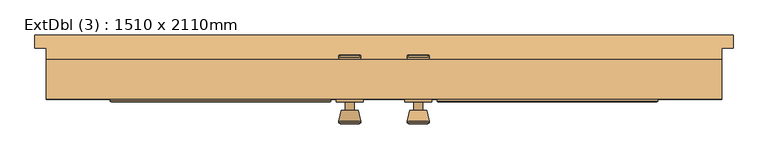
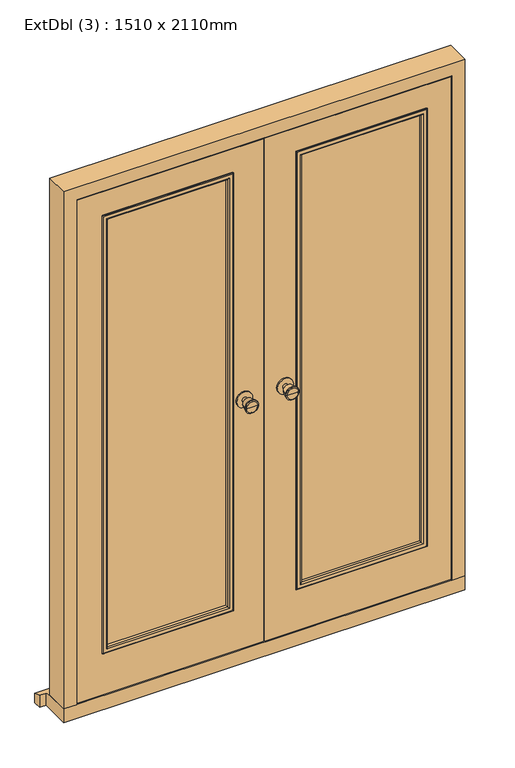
"""IFC4 building model written with IfcOpenShell, lengths in millimetres: door geometry, ExtDbl (3) : 1510 x 2110mm."""

from ifc_helpers import new_model, si_unit, point, frame, frame_2d, origin, place, context, project, spatial, polyline, circle_curve, ellipse_curve, trimmed, segment, composite_curve, outline, extrude, faceted_brep, source, transform, mapped, element, save
from ifc_brep_helpers import plane_surface, cylinder_surface, revolved_surface, advanced_brep


def extdbl_3_1510_x_2110mm_da252324(model_context):
    return source(origin(), model_context, "Body", "SolidModel", [
        advanced_brep(
        [(-76.5, -45.0, 1050.0), (-66.5, -45.0, 1050.0), (-86.5, -45.0, 1050.0), (-96.9758676, -94.0, 1050.0), (-56.0241324, -94.0, 1050.0), (-76.5, -94.0, 1050.0), (-101.5, -92.1721319, 1050.0), (-51.5, -92.1721319, 1050.0), (-101.5, -88.7084537, 1050.0), (-51.5, -88.7084537, 1050.0), (-95.136236, -64.0, 1050.0), (-57.863764, -64.0, 1050.0), (-86.5, -64.0, 1050.0), (-66.5, -64.0, 1050.0)],
        [
            (0, 1),
            (1, 2, circle_curve(frame((-76.5, -45.0, 1050.0), z_axis=(0.0, 1.0, 0.0), x_axis=(1.0, 0.0, 0.0)), 10.0)),
            (2, 0),
            (2, 1, circle_curve(frame((-76.5, -45.0, 1050.0), z_axis=(0.0, 1.0, 0.0), x_axis=(1.0, 0.0, 0.0)), 10.0)),
            (3, 4, circle_curve(frame((-76.5, -94.0, 1050.0), z_axis=(0.0, -1.0, 0.0), x_axis=(1.0, 0.0, 0.0)), 20.4758676)),
            (4, 5),
            (5, 3),
            (4, 3, circle_curve(frame((-76.5, -94.0, 1050.0), z_axis=(0.0, -1.0, 0.0), x_axis=(1.0, 0.0, 0.0)), 20.4758676)),
            (6, 7, circle_curve(frame((-76.5, -92.1721319, 1050.0), z_axis=(0.0, -1.0, 0.0), x_axis=(1.0, 0.0, 0.0)), 25.0)),
            (7, 4),
            (3, 6),
            (7, 6, circle_curve(frame((-76.5, -92.1721319, 1050.0), z_axis=(0.0, -1.0, 0.0), x_axis=(1.0, 0.0, 0.0)), 25.0)),
            (8, 9, circle_curve(frame((-76.5, -88.7084537, 1050.0), z_axis=(0.0, -1.0, 0.0), x_axis=(1.0, 0.0, 0.0)), 25.0)),
            (9, 7),
            (6, 8),
            (9, 8, circle_curve(frame((-76.5, -88.7084537, 1050.0), z_axis=(0.0, -1.0, 0.0), x_axis=(1.0, 0.0, 0.0)), 25.0)),
            (10, 11, circle_curve(frame((-76.5, -64.0, 1050.0), z_axis=(0.0, -1.0, 0.0), x_axis=(1.0, 0.0, 0.0)), 18.636236)),
            (11, 9),
            (8, 10),
            (11, 10, circle_curve(frame((-76.5, -64.0, 1050.0), z_axis=(0.0, -1.0, 0.0), x_axis=(1.0, 0.0, 0.0)), 18.636236)),
            (12, 13, circle_curve(frame((-76.5, -64.0, 1050.0), z_axis=(0.0, -1.0, 0.0), x_axis=(1.0, 0.0, 0.0)), 10.0)),
            (13, 11),
            (10, 12),
            (13, 12, circle_curve(frame((-76.5, -64.0, 1050.0), z_axis=(0.0, -1.0, 0.0), x_axis=(1.0, 0.0, 0.0)), 10.0)),
            (1, 13),
            (12, 2),
        ],
        [
            plane_surface(frame((-76.5, -45.0, 1050.0), z_axis=(0.0, 1.0, 0.0), x_axis=(1.0, 0.0, 0.0))),
            plane_surface(frame((-76.5, -94.0, 1050.0), z_axis=(0.0, -1.0, 0.0), x_axis=(1.0, 0.0, 0.0))),
            revolved_surface(polyline([(-56.0241324, -94.0, 1050.0), (-51.5, -92.1721319, 1050.0)]), (-76.5, -45.0, 1050.0), (0.0, 1.0, 0.0)),
            cylinder_surface(frame((-76.5, -45.0, 1050.0), z_axis=(0.0, 1.0, 0.0), x_axis=(1.0, 0.0, 0.0)), 25.0),
            revolved_surface(polyline([(-51.5, -88.7084537, 1050.0), (-57.863764, -64.0, 1050.0)]), (-76.5, -45.0, 1050.0), (0.0, 1.0, 0.0)),
            plane_surface(frame((-76.5, -64.0, 1050.0), z_axis=(0.0, 1.0, 0.0), x_axis=(1.0, 0.0, 0.0))),
            cylinder_surface(frame((-76.5, -45.0, 1050.0), z_axis=(0.0, 1.0, 0.0), x_axis=(1.0, 0.0, 0.0)), 10.0),
        ],
        [
            (0, [[1, 2, 3]]),
            (0, [[-3, 4, -1]]),
            (1, [[5, 6, 7]]),
            (1, [[8, -7, -6]]),
            (2, [[9, 10, -5, 11]]),
            (2, [[12, -11, -8, -10]]),
            (3, [[13, 14, -9, 15]]),
            (3, [[16, -15, -12, -14]]),
            (4, [[17, 18, -13, 19]]),
            (4, [[20, -19, -16, -18]]),
            (5, [[21, 22, -17, 23]]),
            (5, [[24, -23, -20, -22]]),
            (6, [[-2, 25, -21, 26]]),
            (6, [[-4, -26, -24, -25]]),
        ],
    ),
        extrude(outline(composite_curve([segment(trimmed(circle_curve(frame_2d((1050.0, -76.5)), 30.0), [point((1050.0, -46.5))], [point((1050.0, -106.5))], False, "CARTESIAN"), True, "CONTINUOUS"), segment(trimmed(circle_curve(frame_2d((1050.0, -76.5)), 30.0), [point((1050.0, -106.5))], [point((1050.0, -46.5))], False, "CARTESIAN"), True, "CONTINUOUS")], self_intersect=False)), frame((0.0, -45.0, 0.0), z_axis=(0.0, 1.0, 0.0), x_axis=(0.0, 0.0, 1.0)), (0.0, 0.0, 1.0), 6.0),
        advanced_brep(
        [(-76.5, 11.0, 1050.0), (-86.5, 11.0, 1050.0), (-66.5, 11.0, 1050.0), (-96.9758676, 60.0, 1050.0), (-76.5, 60.0, 1050.0), (-56.0241324, 60.0, 1050.0), (-101.5, 58.1721319, 1050.0), (-51.5, 58.1721319, 1050.0), (-101.5, 54.7084537, 1050.0), (-51.5, 54.7084537, 1050.0), (-95.136236, 30.0, 1050.0), (-57.863764, 30.0, 1050.0), (-86.5, 30.0, 1050.0), (-66.5, 30.0, 1050.0)],
        [
            (0, 1),
            (1, 2, circle_curve(frame((-76.5, 11.0, 1050.0), z_axis=(0.0, -1.0, 0.0), x_axis=(1.0, 0.0, 0.0)), 10.0)),
            (2, 0),
            (2, 1, circle_curve(frame((-76.5, 11.0, 1050.0), z_axis=(0.0, -1.0, 0.0), x_axis=(1.0, 0.0, 0.0)), 10.0)),
            (3, 4),
            (4, 5),
            (5, 3, circle_curve(frame((-76.5, 60.0, 1050.0), z_axis=(0.0, 1.0, 0.0), x_axis=(1.0, 0.0, 0.0)), 20.4758676)),
            (3, 5, circle_curve(frame((-76.5, 60.0, 1050.0), z_axis=(0.0, 1.0, 0.0), x_axis=(1.0, 0.0, 0.0)), 20.4758676)),
            (6, 3),
            (5, 7),
            (7, 6, circle_curve(frame((-76.5, 58.1721319, 1050.0), z_axis=(0.0, 1.0, 0.0), x_axis=(1.0, 0.0, 0.0)), 25.0)),
            (6, 7, circle_curve(frame((-76.5, 58.1721319, 1050.0), z_axis=(0.0, 1.0, 0.0), x_axis=(1.0, 0.0, 0.0)), 25.0)),
            (8, 6),
            (7, 9),
            (9, 8, circle_curve(frame((-76.5, 54.7084537, 1050.0), z_axis=(0.0, 1.0, 0.0), x_axis=(1.0, 0.0, 0.0)), 25.0)),
            (8, 9, circle_curve(frame((-76.5, 54.7084537, 1050.0), z_axis=(0.0, 1.0, 0.0), x_axis=(1.0, 0.0, 0.0)), 25.0)),
            (10, 8),
            (9, 11),
            (11, 10, circle_curve(frame((-76.5, 30.0, 1050.0), z_axis=(0.0, 1.0, 0.0), x_axis=(1.0, 0.0, 0.0)), 18.636236)),
            (10, 11, circle_curve(frame((-76.5, 30.0, 1050.0), z_axis=(0.0, 1.0, 0.0), x_axis=(1.0, 0.0, 0.0)), 18.636236)),
            (12, 10),
            (11, 13),
            (13, 12, circle_curve(frame((-76.5, 30.0, 1050.0), z_axis=(0.0, 1.0, 0.0), x_axis=(1.0, 0.0, 0.0)), 10.0)),
            (12, 13, circle_curve(frame((-76.5, 30.0, 1050.0), z_axis=(0.0, 1.0, 0.0), x_axis=(1.0, 0.0, 0.0)), 10.0)),
            (1, 12),
            (13, 2),
        ],
        [
            plane_surface(frame((-76.5, 11.0, 1050.0), z_axis=(0.0, -1.0, 0.0), x_axis=(1.0, 0.0, 0.0))),
            plane_surface(frame((-76.5, 60.0, 1050.0), z_axis=(0.0, 1.0, 0.0), x_axis=(1.0, 0.0, 0.0))),
            revolved_surface(polyline([(-56.0241324, 60.0, 1050.0), (-51.5, 58.1721319, 1050.0)]), (-76.5, 11.0, 1050.0), (0.0, -1.0, 0.0)),
            cylinder_surface(frame((-76.5, 11.0, 1050.0), z_axis=(0.0, -1.0, 0.0), x_axis=(1.0, 0.0, 0.0)), 25.0),
            revolved_surface(polyline([(-51.5, 54.7084537, 1050.0), (-57.863764, 30.0, 1050.0)]), (-76.5, 11.0, 1050.0), (0.0, -1.0, 0.0)),
            plane_surface(frame((-76.5, 30.0, 1050.0), z_axis=(0.0, -1.0, 0.0), x_axis=(1.0, 0.0, 0.0))),
            cylinder_surface(frame((-76.5, 11.0, 1050.0), z_axis=(0.0, -1.0, 0.0), x_axis=(1.0, 0.0, 0.0)), 10.0),
        ],
        [
            (0, [[1, 2, 3]]),
            (0, [[-3, 4, -1]]),
            (1, [[5, 6, 7]]),
            (1, [[-6, -5, 8]]),
            (2, [[9, -7, 10, 11]]),
            (2, [[-10, -8, -9, 12]]),
            (3, [[13, -11, 14, 15]]),
            (3, [[-14, -12, -13, 16]]),
            (4, [[17, -15, 18, 19]]),
            (4, [[-18, -16, -17, 20]]),
            (5, [[21, -19, 22, 23]]),
            (5, [[-22, -20, -21, 24]]),
            (6, [[25, -23, 26, -2]]),
            (6, [[-26, -24, -25, -4]]),
        ],
    ),
        extrude(outline(composite_curve([segment(trimmed(circle_curve(frame_2d((1050.0, -76.5)), 30.0), [point((1050.0, -46.5))], [point((1050.0, -106.5))], False, "CARTESIAN"), True, "CONTINUOUS"), segment(trimmed(circle_curve(frame_2d((1050.0, -76.5)), 30.0), [point((1050.0, -106.5))], [point((1050.0, -46.5))], False, "CARTESIAN"), True, "CONTINUOUS")], self_intersect=False)), frame((0.0, 5.0, 0.0), z_axis=(0.0, 1.0, 0.0), x_axis=(0.0, 0.0, 1.0)), (0.0, 0.0, 1.0), 6.0),
        advanced_brep(
        [(76.5, -45.0, 1050.0), (86.5, -45.0, 1050.0), (66.5, -45.0, 1050.0), (96.9758676, -94.0, 1050.0), (76.5, -94.0, 1050.0), (56.0241324, -94.0, 1050.0), (101.5, -92.1721319, 1050.0), (51.5, -92.1721319, 1050.0), (101.5, -88.7084537, 1050.0), (51.5, -88.7084537, 1050.0), (95.136236, -64.0, 1050.0), (57.863764, -64.0, 1050.0), (86.5, -64.0, 1050.0), (66.5, -64.0, 1050.0)],
        [
            (0, 1),
            (1, 2, circle_curve(frame((76.5, -45.0, 1050.0), z_axis=(0.0, 1.0, 0.0), x_axis=(-1.0, 0.0, 0.0)), 10.0)),
            (2, 0),
            (2, 1, circle_curve(frame((76.5, -45.0, 1050.0), z_axis=(0.0, 1.0, 0.0), x_axis=(-1.0, 0.0, 0.0)), 10.0)),
            (3, 4),
            (4, 5),
            (5, 3, circle_curve(frame((76.5, -94.0, 1050.0), z_axis=(0.0, -1.0, 0.0), x_axis=(-1.0, 0.0, 0.0)), 20.4758676)),
            (3, 5, circle_curve(frame((76.5, -94.0, 1050.0), z_axis=(0.0, -1.0, 0.0), x_axis=(-1.0, 0.0, 0.0)), 20.4758676)),
            (6, 3),
            (5, 7),
            (7, 6, circle_curve(frame((76.5, -92.1721319, 1050.0), z_axis=(0.0, -1.0, 0.0), x_axis=(-1.0, 0.0, 0.0)), 25.0)),
            (6, 7, circle_curve(frame((76.5, -92.1721319, 1050.0), z_axis=(0.0, -1.0, 0.0), x_axis=(-1.0, 0.0, 0.0)), 25.0)),
            (8, 6),
            (7, 9),
            (9, 8, circle_curve(frame((76.5, -88.7084537, 1050.0), z_axis=(0.0, -1.0, 0.0), x_axis=(-1.0, 0.0, 0.0)), 25.0)),
            (8, 9, circle_curve(frame((76.5, -88.7084537, 1050.0), z_axis=(0.0, -1.0, 0.0), x_axis=(-1.0, 0.0, 0.0)), 25.0)),
            (10, 8),
            (9, 11),
            (11, 10, circle_curve(frame((76.5, -64.0, 1050.0), z_axis=(0.0, -1.0, 0.0), x_axis=(-1.0, 0.0, 0.0)), 18.636236)),
            (10, 11, circle_curve(frame((76.5, -64.0, 1050.0), z_axis=(0.0, -1.0, 0.0), x_axis=(-1.0, 0.0, 0.0)), 18.636236)),
            (12, 10),
            (11, 13),
            (13, 12, circle_curve(frame((76.5, -64.0, 1050.0), z_axis=(0.0, -1.0, 0.0), x_axis=(-1.0, 0.0, 0.0)), 10.0)),
            (12, 13, circle_curve(frame((76.5, -64.0, 1050.0), z_axis=(0.0, -1.0, 0.0), x_axis=(-1.0, 0.0, 0.0)), 10.0)),
            (1, 12),
            (13, 2),
        ],
        [
            plane_surface(frame((76.5, -45.0, 1050.0), z_axis=(0.0, 1.0, 0.0), x_axis=(-1.0, 0.0, 0.0))),
            plane_surface(frame((76.5, -94.0, 1050.0), z_axis=(0.0, -1.0, 0.0), x_axis=(-1.0, 0.0, 0.0))),
            revolved_surface(polyline([(56.0241324, -94.0, 1050.0), (51.5, -92.1721319, 1050.0)]), (76.5, -45.0, 1050.0), (0.0, 1.0, 0.0)),
            cylinder_surface(frame((76.5, -45.0, 1050.0), z_axis=(0.0, 1.0, 0.0), x_axis=(-1.0, 0.0, 0.0)), 25.0),
            revolved_surface(polyline([(51.5, -88.7084537, 1050.0), (57.863764, -64.0, 1050.0)]), (76.5, -45.0, 1050.0), (0.0, 1.0, 0.0)),
            plane_surface(frame((76.5, -64.0, 1050.0), z_axis=(0.0, 1.0, 0.0), x_axis=(-1.0, 0.0, 0.0))),
            cylinder_surface(frame((76.5, -45.0, 1050.0), z_axis=(0.0, 1.0, 0.0), x_axis=(-1.0, 0.0, 0.0)), 10.0),
        ],
        [
            (0, [[1, 2, 3]]),
            (0, [[-3, 4, -1]]),
            (1, [[5, 6, 7]]),
            (1, [[-6, -5, 8]]),
            (2, [[9, -7, 10, 11]]),
            (2, [[-10, -8, -9, 12]]),
            (3, [[13, -11, 14, 15]]),
            (3, [[-14, -12, -13, 16]]),
            (4, [[17, -15, 18, 19]]),
            (4, [[-18, -16, -17, 20]]),
            (5, [[21, -19, 22, 23]]),
            (5, [[-22, -20, -21, 24]]),
            (6, [[25, -23, 26, -2]]),
            (6, [[-26, -24, -25, -4]]),
        ],
    ),
        extrude(outline(composite_curve([segment(trimmed(circle_curve(frame_2d((1050.0, 76.5)), 30.0), [point((1050.0, 46.5))], [point((1050.0, 106.5))], False, "CARTESIAN"), True, "CONTINUOUS"), segment(trimmed(circle_curve(frame_2d((1050.0, 76.5)), 30.0), [point((1050.0, 106.5))], [point((1050.0, 46.5))], False, "CARTESIAN"), True, "CONTINUOUS")], self_intersect=False)), frame((0.0, -45.0, 0.0), z_axis=(0.0, 1.0, 0.0), x_axis=(0.0, 0.0, 1.0)), (0.0, 0.0, 1.0), 6.0),
        advanced_brep(
        [(76.5, 11.0, 1050.0), (66.5, 11.0, 1050.0), (86.5, 11.0, 1050.0), (96.9758676, 60.0, 1050.0), (56.0241324, 60.0, 1050.0), (76.5, 60.0, 1050.0), (101.5, 58.1721319, 1050.0), (51.5, 58.1721319, 1050.0), (101.5, 54.7084537, 1050.0), (51.5, 54.7084537, 1050.0), (95.136236, 30.0, 1050.0), (57.863764, 30.0, 1050.0), (86.5, 30.0, 1050.0), (66.5, 30.0, 1050.0)],
        [
            (0, 1),
            (1, 2, circle_curve(frame((76.5, 11.0, 1050.0), z_axis=(0.0, -1.0, 0.0), x_axis=(-1.0, 0.0, 0.0)), 10.0)),
            (2, 0),
            (2, 1, circle_curve(frame((76.5, 11.0, 1050.0), z_axis=(0.0, -1.0, 0.0), x_axis=(-1.0, 0.0, 0.0)), 10.0)),
            (3, 4, circle_curve(frame((76.5, 60.0, 1050.0), z_axis=(0.0, 1.0, 0.0), x_axis=(-1.0, 0.0, 0.0)), 20.4758676)),
            (4, 5),
            (5, 3),
            (4, 3, circle_curve(frame((76.5, 60.0, 1050.0), z_axis=(0.0, 1.0, 0.0), x_axis=(-1.0, 0.0, 0.0)), 20.4758676)),
            (6, 7, circle_curve(frame((76.5, 58.1721319, 1050.0), z_axis=(0.0, 1.0, 0.0), x_axis=(-1.0, 0.0, 0.0)), 25.0)),
            (7, 4),
            (3, 6),
            (7, 6, circle_curve(frame((76.5, 58.1721319, 1050.0), z_axis=(0.0, 1.0, 0.0), x_axis=(-1.0, 0.0, 0.0)), 25.0)),
            (8, 9, circle_curve(frame((76.5, 54.7084537, 1050.0), z_axis=(0.0, 1.0, 0.0), x_axis=(-1.0, 0.0, 0.0)), 25.0)),
            (9, 7),
            (6, 8),
            (9, 8, circle_curve(frame((76.5, 54.7084537, 1050.0), z_axis=(0.0, 1.0, 0.0), x_axis=(-1.0, 0.0, 0.0)), 25.0)),
            (10, 11, circle_curve(frame((76.5, 30.0, 1050.0), z_axis=(0.0, 1.0, 0.0), x_axis=(-1.0, 0.0, 0.0)), 18.636236)),
            (11, 9),
            (8, 10),
            (11, 10, circle_curve(frame((76.5, 30.0, 1050.0), z_axis=(0.0, 1.0, 0.0), x_axis=(-1.0, 0.0, 0.0)), 18.636236)),
            (12, 13, circle_curve(frame((76.5, 30.0, 1050.0), z_axis=(0.0, 1.0, 0.0), x_axis=(-1.0, 0.0, 0.0)), 10.0)),
            (13, 11),
            (10, 12),
            (13, 12, circle_curve(frame((76.5, 30.0, 1050.0), z_axis=(0.0, 1.0, 0.0), x_axis=(-1.0, 0.0, 0.0)), 10.0)),
            (1, 13),
            (12, 2),
        ],
        [
            plane_surface(frame((76.5, 11.0, 1050.0), z_axis=(0.0, -1.0, 0.0), x_axis=(-1.0, 0.0, 0.0))),
            plane_surface(frame((76.5, 60.0, 1050.0), z_axis=(0.0, 1.0, 0.0), x_axis=(-1.0, 0.0, 0.0))),
            revolved_surface(polyline([(56.0241324, 60.0, 1050.0), (51.5, 58.1721319, 1050.0)]), (76.5, 11.0, 1050.0), (0.0, -1.0, 0.0)),
            cylinder_surface(frame((76.5, 11.0, 1050.0), z_axis=(0.0, -1.0, 0.0), x_axis=(-1.0, 0.0, 0.0)), 25.0),
            revolved_surface(polyline([(51.5, 54.7084537, 1050.0), (57.863764, 30.0, 1050.0)]), (76.5, 11.0, 1050.0), (0.0, -1.0, 0.0)),
            plane_surface(frame((76.5, 30.0, 1050.0), z_axis=(0.0, -1.0, 0.0), x_axis=(-1.0, 0.0, 0.0))),
            cylinder_surface(frame((76.5, 11.0, 1050.0), z_axis=(0.0, -1.0, 0.0), x_axis=(-1.0, 0.0, 0.0)), 10.0),
        ],
        [
            (0, [[1, 2, 3]]),
            (0, [[-3, 4, -1]]),
            (1, [[5, 6, 7]]),
            (1, [[8, -7, -6]]),
            (2, [[9, 10, -5, 11]]),
            (2, [[12, -11, -8, -10]]),
            (3, [[13, 14, -9, 15]]),
            (3, [[16, -15, -12, -14]]),
            (4, [[17, 18, -13, 19]]),
            (4, [[20, -19, -16, -18]]),
            (5, [[21, 22, -17, 23]]),
            (5, [[24, -23, -20, -22]]),
            (6, [[-2, 25, -21, 26]]),
            (6, [[-4, -26, -24, -25]]),
        ],
    ),
        extrude(outline(composite_curve([segment(trimmed(circle_curve(frame_2d((1050.0, 76.5)), 30.0), [point((1050.0, 46.5))], [point((1050.0, 106.5))], False, "CARTESIAN"), True, "CONTINUOUS"), segment(trimmed(circle_curve(frame_2d((1050.0, 76.5)), 30.0), [point((1050.0, 106.5))], [point((1050.0, 46.5))], False, "CARTESIAN"), True, "CONTINUOUS")], self_intersect=False)), frame((0.0, 5.0, 0.0), z_axis=(0.0, 1.0, 0.0), x_axis=(0.0, 0.0, 1.0)), (0.0, 0.0, 1.0), 6.0),
        faceted_brep([(684.5, 50.0, 54.5), (755.0, 50.0, 54.5), (755.0, -39.0, 54.5), (706.5, -39.0, 54.5), (706.5, 8.0, 54.5), (684.5, 8.0, 54.5), (684.5, 50.0, 2039.5), (-684.5, 50.0, 2039.5), (-684.5, 50.0, 54.5), (-755.0, 50.0, 54.5), (-755.0, 50.0, 2110.0), (755.0, 50.0, 2110.0), (755.0, -39.0, 2110.0), (-755.0, -39.0, 2110.0), (-755.0, -39.0, 54.5), (-706.5, -39.0, 54.5), (-706.5, -39.0, 2061.5), (706.5, -39.0, 2061.5), (706.5, 8.0, 2061.5), (-706.5, 8.0, 2061.5), (-706.5, 8.0, 54.5), (-684.5, 8.0, 54.5), (-684.5, 8.0, 2039.5), (684.5, 8.0, 2039.5)], [[[0, 1, 2, 3, 4, 5]], [[1, 0, 6, 7, 8, 9, 10, 11]], [[2, 1, 11, 12]], [[3, 2, 12, 13, 14, 15, 16, 17]], [[4, 3, 17, 18]], [[5, 4, 18, 19, 20, 21, 22, 23]], [[0, 5, 23, 6]], [[7, 22, 21, 8]], [[8, 21, 20, 15, 14, 9]], [[13, 10, 9, 14]], [[19, 16, 15, 20]], [[12, 11, 10, 13]], [[18, 17, 16, 19]], [[6, 23, 22, 7]]]),
        extrude(outline(polyline([(126.5, -5.0), (603.5, -5.0), (603.5, -29.0), (126.5, -29.0), (126.5, -5.0)])), frame((0.0, 0.0, 233.5), z_axis=(0.0, 0.0, 1.0), x_axis=(1.0, 0.0, 0.0)), (0.0, 0.0, 1.0), 1725.0),
        extrude(outline(polyline([(-603.5, -5.0), (-126.5, -5.0), (-126.5, -29.0), (-603.5, -29.0), (-603.5, -5.0)])), frame((0.0, 0.0, 233.5), z_axis=(0.0, 0.0, 1.0), x_axis=(1.0, 0.0, 0.0)), (0.0, 0.0, 1.0), 1725.0),
        faceted_brep([(780.0, 105.0, 0.0), (780.0, 105.0, 38.5947221), (780.0, 75.0, 47.2703282), (780.0, 75.0, 0.0), (-780.0, 105.0, 38.5947221), (-780.0, 105.0, 0.0), (-780.0, 75.0, 0.0), (-780.0, 75.0, 47.2703282), (755.0, 75.0, 0.0), (755.0, -39.0, 0.0), (-755.0, -39.0, 0.0), (-755.0, 75.0, 0.0), (-755.0, 75.0, 47.2703282), (-755.0, 50.0, 54.5), (755.0, 50.0, 54.5), (755.0, 75.0, 47.2703282), (-755.0, -39.0, 54.5), (755.0, -39.0, 54.5)], [[[0, 1, 2, 3]], [[4, 5, 6, 7]], [[5, 0, 3, 8, 9, 10, 11, 6]], [[1, 0, 5, 4]], [[1, 4, 7, 12, 13, 14, 15, 2]], [[13, 16, 17, 14]], [[16, 10, 9, 17]], [[12, 11, 10, 16, 13]], [[11, 12, 7, 6]], [[8, 15, 14, 17, 9]], [[15, 8, 3, 2]]]),
        extrude(outline(polyline([(58.5, 703.5), (2058.5, 703.5), (2058.5, 1.5), (58.5, 1.5), (58.5, 703.5)]), holes=[polyline([(1958.5, 603.5), (233.5, 603.5), (233.5, 126.5), (1958.5, 126.5), (1958.5, 603.5)])]), frame((0.0, -39.0, 0.0), z_axis=(0.0, 1.0, 0.0), x_axis=(0.0, 0.0, 1.0)), (0.0, 0.0, 1.0), 44.0),
        extrude(outline(polyline([(58.5, -703.5), (58.5, -1.5), (2058.5, -1.5), (2058.5, -703.5), (58.5, -703.5)]), holes=[polyline([(1958.5, -126.5), (233.5, -126.5), (233.5, -603.5), (1958.5, -603.5), (1958.5, -126.5)])]), frame((0.0, -39.0, 0.0), z_axis=(0.0, 1.0, 0.0), x_axis=(0.0, 0.0, 1.0)), (0.0, 0.0, 1.0), 44.0),
        advanced_brep(
        [(611.5, -43.0, 225.5), (611.5, -39.0, 225.5), (611.5, -39.0, 1966.5), (611.5, -43.0, 1966.5), (609.5, -45.0, 227.5), (609.5, -45.0, 1964.5), (591.5, -40.0, 245.5), (596.5, -45.0, 240.5), (596.5, -45.0, 1951.5), (591.5, -40.0, 1946.5), (591.5, -29.0, 245.5), (591.5, -29.0, 1946.5), (603.5, -39.0, 233.5), (603.5, -29.0, 233.5), (603.5, -29.0, 1958.5), (603.5, -39.0, 1958.5), (118.5, -39.0, 1966.5), (118.5, -43.0, 1966.5), (120.5, -45.0, 1964.5), (133.5, -45.0, 1951.5), (138.5, -40.0, 1946.5), (138.5, -29.0, 1946.5), (126.5, -29.0, 1958.5), (126.5, -39.0, 1958.5), (118.5, -39.0, 225.5), (118.5, -43.0, 225.5), (120.5, -45.0, 227.5), (133.5, -45.0, 240.5), (138.5, -40.0, 245.5), (138.5, -29.0, 245.5), (126.5, -29.0, 233.5), (126.5, -39.0, 233.5)],
        [
            (0, 1),
            (1, 2),
            (2, 3),
            (3, 0),
            (4, 0, ellipse_curve(frame((609.5, -43.0, 227.5), z_axis=(0.707106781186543, 0.0, 0.707106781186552), x_axis=(0.707106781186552, 0.0, -0.7071067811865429)), 2.8284271, 2.0)),
            (3, 5, ellipse_curve(frame((609.5, -43.0, 1964.5), z_axis=(0.707106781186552, 0.0, -0.707106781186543), x_axis=(-0.7071067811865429, 0.0, -0.707106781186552)), 2.8284271, 2.0)),
            (5, 4),
            (6, 7, ellipse_curve(frame((596.5, -40.0, 240.5), z_axis=(0.707106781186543, 0.0, 0.707106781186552), x_axis=(0.707106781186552, 0.0, -0.7071067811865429)), 7.0710678, 5.0)),
            (7, 8),
            (8, 9, ellipse_curve(frame((596.5, -40.0, 1951.5), z_axis=(0.707106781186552, 0.0, -0.707106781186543), x_axis=(-0.7071067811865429, 0.0, -0.707106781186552)), 7.0710678, 5.0)),
            (9, 6),
            (10, 6),
            (9, 11),
            (11, 10),
            (12, 13),
            (13, 14),
            (14, 15),
            (15, 12),
            (2, 16),
            (16, 17),
            (17, 3),
            (17, 18, ellipse_curve(frame((120.5, -43.0, 1964.5), z_axis=(0.707106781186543, 0.0, 0.707106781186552), x_axis=(0.707106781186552, 0.0, -0.7071067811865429)), 2.8284271, 2.0)),
            (18, 5),
            (8, 19),
            (19, 20, ellipse_curve(frame((133.5, -40.0, 1951.5), z_axis=(0.707106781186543, 0.0, 0.707106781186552), x_axis=(0.707106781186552, 0.0, -0.7071067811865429)), 7.0710678, 5.0)),
            (20, 9),
            (20, 21),
            (21, 11),
            (14, 22),
            (22, 23),
            (23, 15),
            (16, 24),
            (24, 25),
            (25, 17),
            (25, 26, ellipse_curve(frame((120.5, -43.0, 227.5), z_axis=(-0.707106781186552, 0.0, 0.7071067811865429), x_axis=(0.7071067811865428, 0.0, 0.7071067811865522)), 2.8284271, 2.0)),
            (26, 18),
            (19, 27),
            (27, 28, ellipse_curve(frame((133.5, -40.0, 240.5), z_axis=(-0.707106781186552, 0.0, 0.7071067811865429), x_axis=(0.7071067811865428, 0.0, 0.7071067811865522)), 7.0710678, 5.0)),
            (28, 20),
            (28, 29),
            (29, 21),
            (22, 30),
            (30, 31),
            (31, 23),
            (24, 1),
            (0, 25),
            (4, 26),
            (7, 27),
            (6, 28),
            (10, 29),
            (13, 30),
            (12, 31),
        ],
        [
            plane_surface(frame((611.5, -39.0, 225.5), z_axis=(1.0, 0.0, 0.0), x_axis=(0.0, 0.0, 1.0))),
            cylinder_surface(frame((609.5, -43.0, 233.5), z_axis=(0.0, 0.0, -1.0), x_axis=(1.0, 0.0, 0.0)), 2.0),
            cylinder_surface(frame((596.5, -40.0, 233.5), z_axis=(0.0, 0.0, -1.0), x_axis=(1.0, 0.0, 0.0)), 5.0),
            plane_surface(frame((591.5, -40.0, 245.5), z_axis=(-1.0, 0.0, 0.0), x_axis=(0.0, 0.0, 1.0))),
            plane_surface(frame((603.5, -29.0, 233.5), z_axis=(1.0, 0.0, 0.0), x_axis=(0.0, 0.0, 1.0))),
            plane_surface(frame((611.5, -39.0, 1966.5), z_axis=(0.0, 0.0, 1.0), x_axis=(-1.0, 0.0, 0.0))),
            cylinder_surface(frame((603.5, -43.0, 1964.5), z_axis=(1.0, 0.0, 0.0), x_axis=(0.0, 0.0, 1.0)), 2.0),
            cylinder_surface(frame((603.5, -40.0, 1951.5), z_axis=(1.0, 0.0, 0.0), x_axis=(0.0, 0.0, 1.0)), 5.0),
            plane_surface(frame((591.5, -40.0, 1946.5), z_axis=(0.0, 0.0, -1.0), x_axis=(-1.0, 0.0, 0.0))),
            plane_surface(frame((603.5, -29.0, 1958.5), z_axis=(0.0, 0.0, 1.0), x_axis=(-1.0, 0.0, 0.0))),
            plane_surface(frame((118.5, -39.0, 1966.5), z_axis=(-1.0, 0.0, 0.0), x_axis=(0.0, 0.0, -1.0))),
            cylinder_surface(frame((120.5, -43.0, 1958.5), z_axis=(0.0, 0.0, 1.0), x_axis=(-1.0, 0.0, 0.0)), 2.0),
            cylinder_surface(frame((133.5, -40.0, 1958.5), z_axis=(0.0, 0.0, 1.0), x_axis=(-1.0, 0.0, 0.0)), 5.0),
            plane_surface(frame((138.5, -40.0, 1946.5), z_axis=(1.0, 0.0, 0.0), x_axis=(0.0, 0.0, -1.0))),
            plane_surface(frame((126.5, -29.0, 1958.5), z_axis=(-1.0, 0.0, 0.0), x_axis=(0.0, 0.0, -1.0))),
            plane_surface(frame((118.5, -39.0, 225.5), z_axis=(0.0, 0.0, -1.0), x_axis=(1.0, 0.0, 0.0))),
            cylinder_surface(frame((126.5, -43.0, 227.5), z_axis=(-1.0, 0.0, 0.0), x_axis=(0.0, 0.0, -1.0)), 2.0),
            plane_surface(frame((120.5, -45.0, 227.5), z_axis=(0.0, -1.0, 0.0), x_axis=(1.0, 0.0, 0.0))),
            cylinder_surface(frame((126.5, -40.0, 240.5), z_axis=(-1.0, 0.0, 0.0), x_axis=(0.0, 0.0, -1.0)), 5.0),
            plane_surface(frame((138.5, -40.0, 245.5), z_axis=(0.0, 0.0, 1.0), x_axis=(1.0, 0.0, 0.0))),
            plane_surface(frame((138.5, -29.0, 245.5), z_axis=(0.0, 1.0, 0.0), x_axis=(1.0, 0.0, 0.0))),
            plane_surface(frame((126.5, -29.0, 233.5), z_axis=(0.0, 0.0, -1.0), x_axis=(1.0, 0.0, 0.0))),
            plane_surface(frame((126.5, -39.0, 233.5), z_axis=(0.0, 1.0, 0.0), x_axis=(1.0, 0.0, 0.0))),
        ],
        [
            (0, [[1, 2, 3, 4]]),
            (1, [[5, -4, 6, 7]]),
            (2, [[8, 9, 10, 11]]),
            (3, [[12, -11, 13, 14]]),
            (4, [[15, 16, 17, 18]]),
            (5, [[-3, 19, 20, 21]]),
            (6, [[-6, -21, 22, 23]]),
            (7, [[-10, 24, 25, 26]]),
            (8, [[-13, -26, 27, 28]]),
            (9, [[-17, 29, 30, 31]]),
            (10, [[-20, 32, 33, 34]]),
            (11, [[-22, -34, 35, 36]]),
            (12, [[-25, 37, 38, 39]]),
            (13, [[-27, -39, 40, 41]]),
            (14, [[-30, 42, 43, 44]]),
            (15, [[-33, 45, -1, 46]]),
            (16, [[-35, -46, -5, 47]]),
            (17, [[-23, -36, -47, -7], [48, -37, -24, -9]]),
            (18, [[-38, -48, -8, 49]]),
            (19, [[-40, -49, -12, 50]]),
            (20, [[51, -42, -29, -16], [-28, -41, -50, -14]]),
            (21, [[-43, -51, -15, 52]]),
            (22, [[-45, -32, -19, -2], [-31, -44, -52, -18]]),
        ],
    ),
        advanced_brep(
        [(-603.5, -29.0, 233.5), (-603.5, -39.0, 233.5), (-603.5, -39.0, 1958.5), (-603.5, -29.0, 1958.5), (-591.5, -40.0, 245.5), (-591.5, -29.0, 245.5), (-591.5, -29.0, 1946.5), (-591.5, -40.0, 1946.5), (-596.5, -45.0, 240.5), (-596.5, -45.0, 1951.5), (-611.5, -43.0, 225.5), (-609.5, -45.0, 227.5), (-609.5, -45.0, 1964.5), (-611.5, -43.0, 1966.5), (-611.5, -39.0, 225.5), (-611.5, -39.0, 1966.5), (-126.5, -39.0, 1958.5), (-126.5, -29.0, 1958.5), (-138.5, -29.0, 1946.5), (-138.5, -40.0, 1946.5), (-133.5, -45.0, 1951.5), (-120.5, -45.0, 1964.5), (-118.5, -43.0, 1966.5), (-118.5, -39.0, 1966.5), (-126.5, -39.0, 233.5), (-126.5, -29.0, 233.5), (-138.5, -29.0, 245.5), (-138.5, -40.0, 245.5), (-133.5, -45.0, 240.5), (-120.5, -45.0, 227.5), (-118.5, -43.0, 225.5), (-118.5, -39.0, 225.5)],
        [
            (0, 1),
            (1, 2),
            (2, 3),
            (3, 0),
            (4, 5),
            (5, 6),
            (6, 7),
            (7, 4),
            (8, 4, ellipse_curve(frame((-596.5, -40.0, 240.5), z_axis=(-0.707106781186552, 0.0, 0.7071067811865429), x_axis=(-0.7071067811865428, 0.0, -0.7071067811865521)), 7.0710678, 5.0)),
            (7, 9, ellipse_curve(frame((-596.5, -40.0, 1951.5), z_axis=(-0.707106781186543, 0.0, -0.707106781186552), x_axis=(0.707106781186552, 0.0, -0.707106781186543)), 7.0710678, 5.0)),
            (9, 8),
            (10, 11, ellipse_curve(frame((-609.5, -43.0, 227.5), z_axis=(-0.707106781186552, 0.0, 0.7071067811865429), x_axis=(-0.7071067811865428, 0.0, -0.7071067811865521)), 2.8284271, 2.0)),
            (11, 12),
            (12, 13, ellipse_curve(frame((-609.5, -43.0, 1964.5), z_axis=(-0.707106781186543, 0.0, -0.707106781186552), x_axis=(0.707106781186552, 0.0, -0.707106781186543)), 2.8284271, 2.0)),
            (13, 10),
            (14, 10),
            (13, 15),
            (15, 14),
            (2, 16),
            (16, 17),
            (17, 3),
            (6, 18),
            (18, 19),
            (19, 7),
            (19, 20, ellipse_curve(frame((-133.5, -40.0, 1951.5), z_axis=(-0.707106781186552, 0.0, 0.707106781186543), x_axis=(-0.707106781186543, 0.0, -0.707106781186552)), 7.0710678, 5.0)),
            (20, 9),
            (12, 21),
            (21, 22, ellipse_curve(frame((-120.5, -43.0, 1964.5), z_axis=(-0.707106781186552, 0.0, 0.707106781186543), x_axis=(-0.707106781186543, 0.0, -0.707106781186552)), 2.8284271, 2.0)),
            (22, 13),
            (22, 23),
            (23, 15),
            (16, 24),
            (24, 25),
            (25, 17),
            (18, 26),
            (26, 27),
            (27, 19),
            (27, 28, ellipse_curve(frame((-133.5, -40.0, 240.5), z_axis=(0.7071067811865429, 0.0, 0.707106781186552), x_axis=(-0.7071067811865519, 0.0, 0.707106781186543)), 7.0710678, 5.0)),
            (28, 20),
            (21, 29),
            (29, 30, ellipse_curve(frame((-120.5, -43.0, 227.5), z_axis=(0.7071067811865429, 0.0, 0.707106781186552), x_axis=(-0.7071067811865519, 0.0, 0.707106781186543)), 2.8284271, 2.0)),
            (30, 22),
            (30, 31),
            (31, 23),
            (31, 14),
            (1, 24),
            (0, 25),
            (5, 26),
            (4, 27),
            (8, 28),
            (11, 29),
            (10, 30),
        ],
        [
            plane_surface(frame((-603.5, -39.0, 233.5), z_axis=(-1.0, 0.0, 0.0), x_axis=(0.0, 0.0, 1.0))),
            plane_surface(frame((-591.5, -29.0, 245.5), z_axis=(1.0, 0.0, 0.0), x_axis=(0.0, 0.0, 1.0))),
            cylinder_surface(frame((-596.5, -40.0, 233.5), z_axis=(0.0, 0.0, -1.0), x_axis=(-1.0, 0.0, 0.0)), 5.0),
            cylinder_surface(frame((-609.5, -43.0, 233.5), z_axis=(0.0, 0.0, -1.0), x_axis=(-1.0, 0.0, 0.0)), 2.0),
            plane_surface(frame((-611.5, -43.0, 225.5), z_axis=(-1.0, 0.0, 0.0), x_axis=(0.0, 0.0, 1.0))),
            plane_surface(frame((-603.5, -39.0, 1958.5), z_axis=(0.0, 0.0, 1.0), x_axis=(1.0, 0.0, 0.0))),
            plane_surface(frame((-591.5, -29.0, 1946.5), z_axis=(0.0, 0.0, -1.0), x_axis=(1.0, 0.0, 0.0))),
            cylinder_surface(frame((-603.5, -40.0, 1951.5), z_axis=(-1.0, 0.0, 0.0), x_axis=(0.0, 0.0, 1.0)), 5.0),
            cylinder_surface(frame((-603.5, -43.0, 1964.5), z_axis=(-1.0, 0.0, 0.0), x_axis=(0.0, 0.0, 1.0)), 2.0),
            plane_surface(frame((-611.5, -43.0, 1966.5), z_axis=(0.0, 0.0, 1.0), x_axis=(1.0, 0.0, 0.0))),
            plane_surface(frame((-126.5, -39.0, 1958.5), z_axis=(1.0, 0.0, 0.0), x_axis=(0.0, 0.0, -1.0))),
            plane_surface(frame((-138.5, -29.0, 1946.5), z_axis=(-1.0, 0.0, 0.0), x_axis=(0.0, 0.0, -1.0))),
            cylinder_surface(frame((-133.5, -40.0, 1958.5), z_axis=(0.0, 0.0, 1.0), x_axis=(1.0, 0.0, 0.0)), 5.0),
            cylinder_surface(frame((-120.5, -43.0, 1958.5), z_axis=(0.0, 0.0, 1.0), x_axis=(1.0, 0.0, 0.0)), 2.0),
            plane_surface(frame((-118.5, -43.0, 1966.5), z_axis=(1.0, 0.0, 0.0), x_axis=(0.0, 0.0, -1.0))),
            plane_surface(frame((-118.5, -39.0, 225.5), z_axis=(0.0, 1.0, 0.0), x_axis=(-1.0, 0.0, 0.0))),
            plane_surface(frame((-126.5, -39.0, 233.5), z_axis=(0.0, 0.0, -1.0), x_axis=(-1.0, 0.0, 0.0))),
            plane_surface(frame((-126.5, -29.0, 233.5), z_axis=(0.0, 1.0, 0.0), x_axis=(-1.0, 0.0, 0.0))),
            plane_surface(frame((-138.5, -29.0, 245.5), z_axis=(0.0, 0.0, 1.0), x_axis=(-1.0, 0.0, 0.0))),
            cylinder_surface(frame((-126.5, -40.0, 240.5), z_axis=(1.0, 0.0, 0.0), x_axis=(0.0, 0.0, -1.0)), 5.0),
            plane_surface(frame((-133.5, -45.0, 240.5), z_axis=(0.0, -1.0, 0.0), x_axis=(-1.0, 0.0, 0.0))),
            cylinder_surface(frame((-126.5, -43.0, 227.5), z_axis=(1.0, 0.0, 0.0), x_axis=(0.0, 0.0, -1.0)), 2.0),
            plane_surface(frame((-118.5, -43.0, 225.5), z_axis=(0.0, 0.0, -1.0), x_axis=(-1.0, 0.0, 0.0))),
        ],
        [
            (0, [[1, 2, 3, 4]]),
            (1, [[5, 6, 7, 8]]),
            (2, [[9, -8, 10, 11]]),
            (3, [[12, 13, 14, 15]]),
            (4, [[16, -15, 17, 18]]),
            (5, [[-3, 19, 20, 21]]),
            (6, [[-7, 22, 23, 24]]),
            (7, [[-10, -24, 25, 26]]),
            (8, [[-14, 27, 28, 29]]),
            (9, [[-17, -29, 30, 31]]),
            (10, [[-20, 32, 33, 34]]),
            (11, [[-23, 35, 36, 37]]),
            (12, [[-25, -37, 38, 39]]),
            (13, [[-28, 40, 41, 42]]),
            (14, [[-30, -42, 43, 44]]),
            (15, [[-31, -44, 45, -18], [46, -32, -19, -2]]),
            (16, [[-33, -46, -1, 47]]),
            (17, [[-21, -34, -47, -4], [48, -35, -22, -6]]),
            (18, [[-36, -48, -5, 49]]),
            (19, [[-38, -49, -9, 50]]),
            (20, [[51, -40, -27, -13], [-26, -39, -50, -11]]),
            (21, [[-41, -51, -12, 52]]),
            (22, [[-43, -52, -16, -45]]),
        ],
    ),
        advanced_brep(
        [(-611.5, 9.0, 225.5), (-611.5, 5.0, 225.5), (-611.5, 5.0, 1966.5), (-611.5, 9.0, 1966.5), (-609.5, 11.0, 227.5), (-609.5, 11.0, 1964.5), (-591.5, 6.0, 245.5), (-596.5, 11.0, 240.5), (-596.5, 11.0, 1951.5), (-591.5, 6.0, 1946.5), (-591.5, -5.0, 245.5), (-591.5, -5.0, 1946.5), (-603.5, 5.0, 233.5), (-603.5, -5.0, 233.5), (-603.5, -5.0, 1958.5), (-603.5, 5.0, 1958.5), (-118.5, 5.0, 1966.5), (-118.5, 9.0, 1966.5), (-120.5, 11.0, 1964.5), (-133.5, 11.0, 1951.5), (-138.5, 6.0, 1946.5), (-138.5, -5.0, 1946.5), (-126.5, -5.0, 1958.5), (-126.5, 5.0, 1958.5), (-118.5, 5.0, 225.5), (-118.5, 9.0, 225.5), (-120.5, 11.0, 227.5), (-133.5, 11.0, 240.5), (-138.5, 6.0, 245.5), (-138.5, -5.0, 245.5), (-126.5, -5.0, 233.5), (-126.5, 5.0, 233.5)],
        [
            (0, 1),
            (1, 2),
            (2, 3),
            (3, 0),
            (4, 0, ellipse_curve(frame((-609.5, 9.0, 227.5), z_axis=(-0.7071067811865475, 0.0, 0.7071067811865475), x_axis=(-0.7071067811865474, 0.0, -0.7071067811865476)), 2.8284271, 2.0)),
            (3, 5, ellipse_curve(frame((-609.5, 9.0, 1964.5), z_axis=(-0.7071067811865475, 0.0, -0.7071067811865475), x_axis=(0.7071067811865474, 0.0, -0.7071067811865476)), 2.8284271, 2.0)),
            (5, 4),
            (6, 7, ellipse_curve(frame((-596.5, 6.0, 240.5), z_axis=(-0.7071067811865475, 0.0, 0.7071067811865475), x_axis=(-0.7071067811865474, 0.0, -0.7071067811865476)), 7.0710678, 5.0)),
            (7, 8),
            (8, 9, ellipse_curve(frame((-596.5, 6.0, 1951.5), z_axis=(-0.7071067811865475, 0.0, -0.7071067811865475), x_axis=(0.7071067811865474, 0.0, -0.7071067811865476)), 7.0710678, 5.0)),
            (9, 6),
            (10, 6),
            (9, 11),
            (11, 10),
            (12, 13),
            (13, 14),
            (14, 15),
            (15, 12),
            (2, 16),
            (16, 17),
            (17, 3),
            (17, 18, ellipse_curve(frame((-120.5, 9.0, 1964.5), z_axis=(-0.7071067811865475, 0.0, 0.7071067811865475), x_axis=(-0.7071067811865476, 0.0, -0.7071067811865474)), 2.8284271, 2.0)),
            (18, 5),
            (8, 19),
            (19, 20, ellipse_curve(frame((-133.5, 6.0, 1951.5), z_axis=(-0.7071067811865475, 0.0, 0.7071067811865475), x_axis=(-0.7071067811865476, 0.0, -0.7071067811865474)), 7.0710678, 5.0)),
            (20, 9),
            (20, 21),
            (21, 11),
            (14, 22),
            (22, 23),
            (23, 15),
            (16, 24),
            (24, 25),
            (25, 17),
            (25, 26, ellipse_curve(frame((-120.5, 9.0, 227.5), z_axis=(0.7071067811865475, 0.0, 0.7071067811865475), x_axis=(-0.7071067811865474, 0.0, 0.7071067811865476)), 2.8284271, 2.0)),
            (26, 18),
            (19, 27),
            (27, 28, ellipse_curve(frame((-133.5, 6.0, 240.5), z_axis=(0.7071067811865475, 0.0, 0.7071067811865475), x_axis=(-0.7071067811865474, 0.0, 0.7071067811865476)), 7.0710678, 5.0)),
            (28, 20),
            (28, 29),
            (29, 21),
            (22, 30),
            (30, 31),
            (31, 23),
            (24, 1),
            (0, 25),
            (4, 26),
            (7, 27),
            (6, 28),
            (10, 29),
            (13, 30),
            (12, 31),
        ],
        [
            plane_surface(frame((-611.5, 5.0, 225.5), z_axis=(-1.0, 0.0, 0.0), x_axis=(0.0, 0.0, 1.0))),
            cylinder_surface(frame((-609.5, 9.0, 233.5), z_axis=(0.0, 0.0, -1.0), x_axis=(-1.0, 0.0, 0.0)), 2.0),
            cylinder_surface(frame((-596.5, 6.0, 233.5), z_axis=(0.0, 0.0, -1.0), x_axis=(-1.0, 0.0, 0.0)), 5.0),
            plane_surface(frame((-591.5, 6.0, 245.5), z_axis=(1.0, 0.0, 0.0), x_axis=(0.0, 0.0, 1.0))),
            plane_surface(frame((-603.5, -5.0, 233.5), z_axis=(-1.0, 0.0, 0.0), x_axis=(0.0, 0.0, 1.0))),
            plane_surface(frame((-611.5, 5.0, 1966.5), z_axis=(0.0, 0.0, 1.0), x_axis=(1.0, 0.0, 0.0))),
            cylinder_surface(frame((-603.5, 9.0, 1964.5), z_axis=(-1.0, 0.0, 0.0), x_axis=(0.0, 0.0, 1.0)), 2.0),
            cylinder_surface(frame((-603.5, 6.0, 1951.5), z_axis=(-1.0, 0.0, 0.0), x_axis=(0.0, 0.0, 1.0)), 5.0),
            plane_surface(frame((-591.5, 6.0, 1946.5), z_axis=(0.0, 0.0, -1.0), x_axis=(1.0, 0.0, 0.0))),
            plane_surface(frame((-603.5, -5.0, 1958.5), z_axis=(0.0, 0.0, 1.0), x_axis=(1.0, 0.0, 0.0))),
            plane_surface(frame((-118.5, 5.0, 1966.5), z_axis=(1.0, 0.0, 0.0), x_axis=(0.0, 0.0, -1.0))),
            cylinder_surface(frame((-120.5, 9.0, 1958.5), z_axis=(0.0, 0.0, 1.0), x_axis=(1.0, 0.0, 0.0)), 2.0),
            cylinder_surface(frame((-133.5, 6.0, 1958.5), z_axis=(0.0, 0.0, 1.0), x_axis=(1.0, 0.0, 0.0)), 5.0),
            plane_surface(frame((-138.5, 6.0, 1946.5), z_axis=(-1.0, 0.0, 0.0), x_axis=(0.0, 0.0, -1.0))),
            plane_surface(frame((-126.5, -5.0, 1958.5), z_axis=(1.0, 0.0, 0.0), x_axis=(0.0, 0.0, -1.0))),
            plane_surface(frame((-118.5, 5.0, 225.5), z_axis=(0.0, 0.0, -1.0), x_axis=(-1.0, 0.0, 0.0))),
            cylinder_surface(frame((-126.5, 9.0, 227.5), z_axis=(1.0, 0.0, 0.0), x_axis=(0.0, 0.0, -1.0)), 2.0),
            plane_surface(frame((-120.5, 11.0, 227.5), z_axis=(0.0, 1.0, 0.0), x_axis=(-1.0, 0.0, 0.0))),
            cylinder_surface(frame((-126.5, 6.0, 240.5), z_axis=(1.0, 0.0, 0.0), x_axis=(0.0, 0.0, -1.0)), 5.0),
            plane_surface(frame((-138.5, 6.0, 245.5), z_axis=(0.0, 0.0, 1.0), x_axis=(-1.0, 0.0, 0.0))),
            plane_surface(frame((-138.5, -5.0, 245.5), z_axis=(0.0, -1.0, 0.0), x_axis=(-1.0, 0.0, 0.0))),
            plane_surface(frame((-126.5, -5.0, 233.5), z_axis=(0.0, 0.0, -1.0), x_axis=(-1.0, 0.0, 0.0))),
            plane_surface(frame((-126.5, 5.0, 233.5), z_axis=(0.0, -1.0, 0.0), x_axis=(-1.0, 0.0, 0.0))),
        ],
        [
            (0, [[1, 2, 3, 4]]),
            (1, [[5, -4, 6, 7]]),
            (2, [[8, 9, 10, 11]]),
            (3, [[12, -11, 13, 14]]),
            (4, [[15, 16, 17, 18]]),
            (5, [[-3, 19, 20, 21]]),
            (6, [[-6, -21, 22, 23]]),
            (7, [[-10, 24, 25, 26]]),
            (8, [[-13, -26, 27, 28]]),
            (9, [[-17, 29, 30, 31]]),
            (10, [[-20, 32, 33, 34]]),
            (11, [[-22, -34, 35, 36]]),
            (12, [[-25, 37, 38, 39]]),
            (13, [[-27, -39, 40, 41]]),
            (14, [[-30, 42, 43, 44]]),
            (15, [[-33, 45, -1, 46]]),
            (16, [[-35, -46, -5, 47]]),
            (17, [[-23, -36, -47, -7], [48, -37, -24, -9]]),
            (18, [[-38, -48, -8, 49]]),
            (19, [[-40, -49, -12, 50]]),
            (20, [[51, -42, -29, -16], [-28, -41, -50, -14]]),
            (21, [[-43, -51, -15, 52]]),
            (22, [[-45, -32, -19, -2], [-31, -44, -52, -18]]),
        ],
    ),
        advanced_brep(
        [(118.5, 9.0, 225.5), (118.5, 5.0, 225.5), (118.5, 5.0, 1966.5), (118.5, 9.0, 1966.5), (120.5, 11.0, 227.5), (120.5, 11.0, 1964.5), (138.5, 6.0, 245.5), (133.5, 11.0, 240.5), (133.5, 11.0, 1951.5), (138.5, 6.0, 1946.5), (138.5, -5.0, 245.5), (138.5, -5.0, 1946.5), (126.5, 5.0, 233.5), (126.5, -5.0, 233.5), (126.5, -5.0, 1958.5), (126.5, 5.0, 1958.5), (611.5, 5.0, 1966.5), (611.5, 9.0, 1966.5), (609.5, 11.0, 1964.5), (596.5, 11.0, 1951.5), (591.5, 6.0, 1946.5), (591.5, -5.0, 1946.5), (603.5, -5.0, 1958.5), (603.5, 5.0, 1958.5), (611.5, 5.0, 225.5), (611.5, 9.0, 225.5), (609.5, 11.0, 227.5), (596.5, 11.0, 240.5), (591.5, 6.0, 245.5), (591.5, -5.0, 245.5), (603.5, -5.0, 233.5), (603.5, 5.0, 233.5)],
        [
            (0, 1),
            (1, 2),
            (2, 3),
            (3, 0),
            (4, 0, ellipse_curve(frame((120.5, 9.0, 227.5), z_axis=(-0.7071067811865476, 0.0, 0.7071067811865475), x_axis=(-0.7071067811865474, 0.0, -0.7071067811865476)), 2.8284271, 2.0)),
            (3, 5, ellipse_curve(frame((120.5, 9.0, 1964.5), z_axis=(-0.7071067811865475, 0.0, -0.7071067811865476), x_axis=(0.7071067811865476, 0.0, -0.7071067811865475)), 2.8284271, 2.0)),
            (5, 4),
            (6, 7, ellipse_curve(frame((133.5, 6.0, 240.5), z_axis=(-0.7071067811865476, 0.0, 0.7071067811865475), x_axis=(-0.7071067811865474, 0.0, -0.7071067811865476)), 7.0710678, 5.0)),
            (7, 8),
            (8, 9, ellipse_curve(frame((133.5, 6.0, 1951.5), z_axis=(-0.7071067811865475, 0.0, -0.7071067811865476), x_axis=(0.7071067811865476, 0.0, -0.7071067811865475)), 7.0710678, 5.0)),
            (9, 6),
            (10, 6),
            (9, 11),
            (11, 10),
            (12, 13),
            (13, 14),
            (14, 15),
            (15, 12),
            (2, 16),
            (16, 17),
            (17, 3),
            (17, 18, ellipse_curve(frame((609.5, 9.0, 1964.5), z_axis=(-0.7071067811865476, 0.0, 0.7071067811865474), x_axis=(-0.7071067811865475, 0.0, -0.7071067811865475)), 2.8284271, 2.0)),
            (18, 5),
            (8, 19),
            (19, 20, ellipse_curve(frame((596.5, 6.0, 1951.5), z_axis=(-0.7071067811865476, 0.0, 0.7071067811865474), x_axis=(-0.7071067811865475, 0.0, -0.7071067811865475)), 7.0710678, 5.0)),
            (20, 9),
            (20, 21),
            (21, 11),
            (14, 22),
            (22, 23),
            (23, 15),
            (16, 24),
            (24, 25),
            (25, 17),
            (25, 26, ellipse_curve(frame((609.5, 9.0, 227.5), z_axis=(0.7071067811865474, 0.0, 0.7071067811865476), x_axis=(-0.7071067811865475, 0.0, 0.7071067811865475)), 2.8284271, 2.0)),
            (26, 18),
            (19, 27),
            (27, 28, ellipse_curve(frame((596.5, 6.0, 240.5), z_axis=(0.7071067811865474, 0.0, 0.7071067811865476), x_axis=(-0.7071067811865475, 0.0, 0.7071067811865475)), 7.0710678, 5.0)),
            (28, 20),
            (28, 29),
            (29, 21),
            (22, 30),
            (30, 31),
            (31, 23),
            (24, 1),
            (0, 25),
            (4, 26),
            (7, 27),
            (6, 28),
            (10, 29),
            (13, 30),
            (12, 31),
        ],
        [
            plane_surface(frame((118.5, 5.0, 225.5), z_axis=(-1.0, 0.0, 0.0), x_axis=(0.0, 0.0, 1.0))),
            cylinder_surface(frame((120.5, 9.0, 233.5), z_axis=(0.0, 0.0, -1.0), x_axis=(-1.0, 0.0, 0.0)), 2.0),
            cylinder_surface(frame((133.5, 6.0, 233.5), z_axis=(0.0, 0.0, -1.0), x_axis=(-1.0, 0.0, 0.0)), 5.0),
            plane_surface(frame((138.5, 6.0, 245.5), z_axis=(1.0, 0.0, 0.0), x_axis=(0.0, 0.0, 1.0))),
            plane_surface(frame((126.5, -5.0, 233.5), z_axis=(-1.0, 0.0, 0.0), x_axis=(0.0, 0.0, 1.0))),
            plane_surface(frame((118.5, 5.0, 1966.5), z_axis=(0.0, 0.0, 1.0), x_axis=(1.0, 0.0, 0.0))),
            cylinder_surface(frame((126.5, 9.0, 1964.5), z_axis=(-1.0, 0.0, 0.0), x_axis=(0.0, 0.0, 1.0)), 2.0),
            cylinder_surface(frame((126.5, 6.0, 1951.5), z_axis=(-1.0, 0.0, 0.0), x_axis=(0.0, 0.0, 1.0)), 5.0),
            plane_surface(frame((138.5, 6.0, 1946.5), z_axis=(0.0, 0.0, -1.0), x_axis=(1.0, 0.0, 0.0))),
            plane_surface(frame((126.5, -5.0, 1958.5), z_axis=(0.0, 0.0, 1.0), x_axis=(1.0, 0.0, 0.0))),
            plane_surface(frame((611.5, 5.0, 1966.5), z_axis=(1.0, 0.0, 0.0), x_axis=(0.0, 0.0, -1.0))),
            cylinder_surface(frame((609.5, 9.0, 1958.5), z_axis=(0.0, 0.0, 1.0), x_axis=(1.0, 0.0, 0.0)), 2.0),
            cylinder_surface(frame((596.5, 6.0, 1958.5), z_axis=(0.0, 0.0, 1.0), x_axis=(1.0, 0.0, 0.0)), 5.0),
            plane_surface(frame((591.5, 6.0, 1946.5), z_axis=(-1.0, 0.0, 0.0), x_axis=(0.0, 0.0, -1.0))),
            plane_surface(frame((603.5, -5.0, 1958.5), z_axis=(1.0, 0.0, 0.0), x_axis=(0.0, 0.0, -1.0))),
            plane_surface(frame((611.5, 5.0, 225.5), z_axis=(0.0, 0.0, -1.0), x_axis=(-1.0, 0.0, 0.0))),
            cylinder_surface(frame((603.5, 9.0, 227.5), z_axis=(1.0, 0.0, 0.0), x_axis=(0.0, 0.0, -1.0)), 2.0),
            plane_surface(frame((609.5, 11.0, 227.5), z_axis=(0.0, 1.0, 0.0), x_axis=(-1.0, 0.0, 0.0))),
            cylinder_surface(frame((603.5, 6.0, 240.5), z_axis=(1.0, 0.0, 0.0), x_axis=(0.0, 0.0, -1.0)), 5.0),
            plane_surface(frame((591.5, 6.0, 245.5), z_axis=(0.0, 0.0, 1.0), x_axis=(-1.0, 0.0, 0.0))),
            plane_surface(frame((591.5, -5.0, 245.5), z_axis=(0.0, -1.0, 0.0), x_axis=(-1.0, 0.0, 0.0))),
            plane_surface(frame((603.5, -5.0, 233.5), z_axis=(0.0, 0.0, -1.0), x_axis=(-1.0, 0.0, 0.0))),
            plane_surface(frame((603.5, 5.0, 233.5), z_axis=(0.0, -1.0, 0.0), x_axis=(-1.0, 0.0, 0.0))),
        ],
        [
            (0, [[1, 2, 3, 4]]),
            (1, [[5, -4, 6, 7]]),
            (2, [[8, 9, 10, 11]]),
            (3, [[12, -11, 13, 14]]),
            (4, [[15, 16, 17, 18]]),
            (5, [[-3, 19, 20, 21]]),
            (6, [[-6, -21, 22, 23]]),
            (7, [[-10, 24, 25, 26]]),
            (8, [[-13, -26, 27, 28]]),
            (9, [[-17, 29, 30, 31]]),
            (10, [[-20, 32, 33, 34]]),
            (11, [[-22, -34, 35, 36]]),
            (12, [[-25, 37, 38, 39]]),
            (13, [[-27, -39, 40, 41]]),
            (14, [[-30, 42, 43, 44]]),
            (15, [[-33, 45, -1, 46]]),
            (16, [[-35, -46, -5, 47]]),
            (17, [[-23, -36, -47, -7], [48, -37, -24, -9]]),
            (18, [[-38, -48, -8, 49]]),
            (19, [[-40, -49, -12, 50]]),
            (20, [[51, -42, -29, -16], [-28, -41, -50, -14]]),
            (21, [[-43, -51, -15, 52]]),
            (22, [[-45, -32, -19, -2], [-31, -44, -52, -18]]),
        ],
    ),
        extrude(outline(polyline([(233.5, -375.0), (233.5, -355.0), (568.5, -355.0), (568.5, -126.5), (588.5, -126.5), (588.5, -355.0), (913.5, -355.0), (913.5, -126.5), (933.5, -126.5), (933.5, -355.0), (1258.5, -355.0), (1258.5, -126.5), (1278.5, -126.5), (1278.5, -355.0), (1603.5, -355.0), (1603.5, -126.5), (1623.5, -126.5), (1623.5, -355.0), (1958.5, -355.0), (1958.5, -375.0), (1623.5, -375.0), (1623.5, -603.5), (1603.5, -603.5), (1603.5, -375.0), (1278.5, -375.0), (1278.5, -603.5), (1258.5, -603.5), (1258.5, -375.0), (933.5, -375.0), (933.5, -603.5), (913.5, -603.5), (913.5, -375.0), (588.5, -375.0), (588.5, -603.5), (568.5, -603.5), (568.5, -375.0), (233.5, -375.0)])), frame((0.0, -21.0, 0.0), z_axis=(0.0, 1.0, 0.0), x_axis=(0.0, 0.0, 1.0)), (0.0, 0.0, 1.0), 8.0),
        extrude(outline(polyline([(233.5, 355.0), (233.5, 375.0), (568.5, 375.0), (568.5, 603.5), (588.5, 603.5), (588.5, 375.0), (913.5, 375.0), (913.5, 603.5), (933.5, 603.5), (933.5, 375.0), (1258.5, 375.0), (1258.5, 603.5), (1278.5, 603.5), (1278.5, 375.0), (1603.5, 375.0), (1603.5, 603.5), (1623.5, 603.5), (1623.5, 375.0), (1958.5, 375.0), (1958.5, 355.0), (1623.5, 355.0), (1623.5, 126.5), (1603.5, 126.5), (1603.5, 355.0), (1278.5, 355.0), (1278.5, 126.5), (1258.5, 126.5), (1258.5, 355.0), (933.5, 355.0), (933.5, 126.5), (913.5, 126.5), (913.5, 355.0), (588.5, 355.0), (588.5, 126.5), (568.5, 126.5), (568.5, 355.0), (233.5, 355.0)])), frame((0.0, -21.0, 0.0), z_axis=(0.0, 1.0, 0.0), x_axis=(0.0, 0.0, 1.0)), (0.0, 0.0, 1.0), 8.0),
    ])


if __name__ == "__main__":
    model = new_model("IFC4")
    model_context = context("Model", 3, world=origin())
    ifc_project = project(units=[si_unit("LENGTHUNIT", "METRE", prefix="MILLI")], contexts=[model_context])
    site = spatial("IfcSite", under=ifc_project)
    building = spatial("IfcBuilding", under=site)
    placement = place(None, origin())
    extdbl_3_1510_x_2110mm_shape = extdbl_3_1510_x_2110mm_da252324(model_context)
    element("IfcDoor", 1, ObjectType="ExtDbl (3) : 1510 x 2110mm", at=placement, inside=building, context=model_context, shape_type="MappedRepresentation", body=[
        mapped(extdbl_3_1510_x_2110mm_shape, transform((0.0, 0.0, 0.0), x_axis=(1.0, 0.0, 0.0), y_axis=(0.0, 1.0, 0.0), z_axis=(0.0, 0.0, 1.0))),
    ])
    save(model, "model.ifc")
